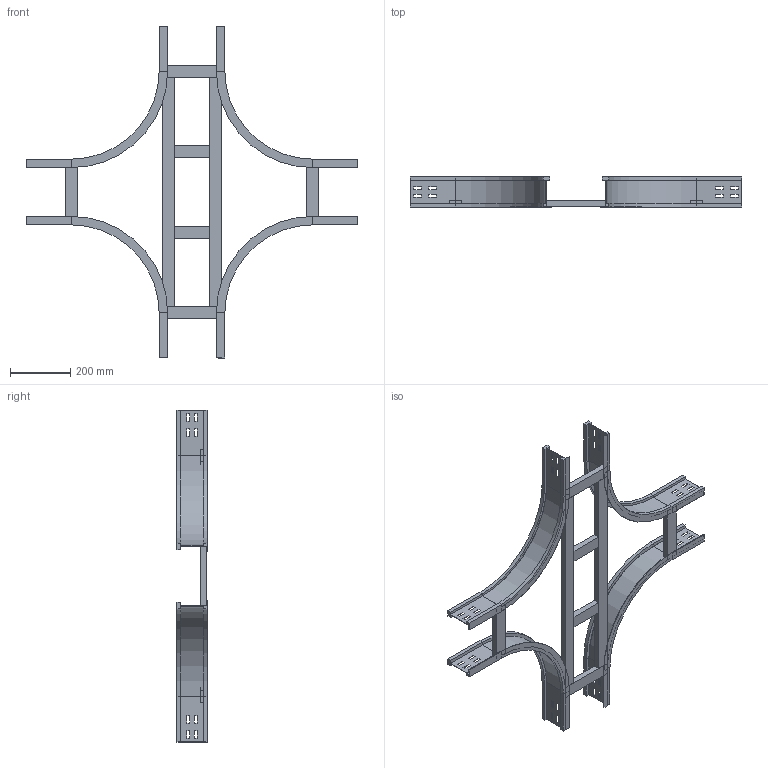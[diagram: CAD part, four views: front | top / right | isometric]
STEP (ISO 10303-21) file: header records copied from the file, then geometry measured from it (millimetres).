
FILE_DESCRIPTION (( 'STEP AP214' ), '1' );
FILE_NAME ('17S3D200.step', '2025-02-21T16:15:50', ( '' ), ( '' ), 'SwSTEP 2.0', 'SolidWorks 2023', '' );
FILE_SCHEMA (( 'AUTOMOTIVE_DESIGN' ));
Length unit declared in the file: millimetre
Products named in the file (5): LONGH.INTERNO 90°_H100_R300; TRAVERSINO_INTERMEDIO_X_R300+200; 17S3D200; TRAVERSINO_200; TRAVERSINO_LONG._R300+200
Assembly tree (12 placements, depth 2):
  17S3D200
    LONGH.INTERNO 90°_H100_R300  x4
    TRAVERSINO_200  x4
    TRAVERSINO_INTERMEDIO_X_R300+200  x2
    TRAVERSINO_LONG._R300+200  x2
Bounding box: 1100 x 100 x 1100 mm (x, y, z)
Volume: 3684164.2 mm3; surface area: 1232432.2 mm2
Topology: 12 solids, 12 shells, 328 faces, 816 edges, 512 vertices
Faces by surface type: plane 304, cylinder 24
Entity records: 2770 total; most frequent: CARTESIAN_POINT 455, DIRECTION 434, ORIENTED_EDGE 432, EDGE_CURVE 216, VECTOR 204, LINE 204, VERTEX_POINT 136, AXIS2_PLACEMENT_3D 115
